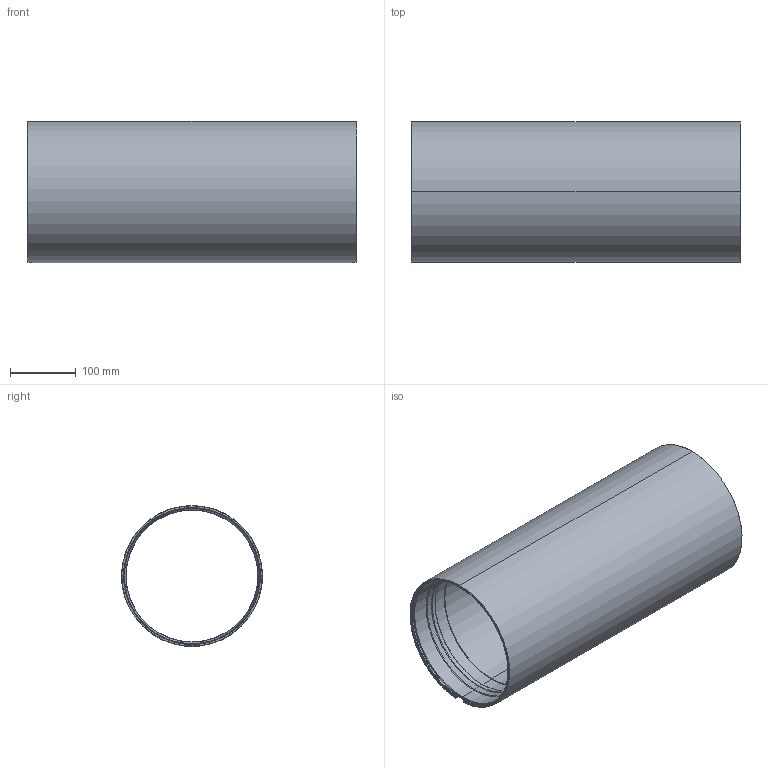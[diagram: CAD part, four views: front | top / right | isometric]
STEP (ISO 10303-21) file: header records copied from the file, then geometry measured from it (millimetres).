
FILE_DESCRIPTION (( 'STEP AP214' ), '1' );
FILE_NAME ('BR-101412-500_RevB.STEP', '2025-01-23T23:44:05', ( '' ), ( '' ), 'SwSTEP 2.0', 'SolidWorks 2024', '' );
FILE_SCHEMA (( 'AUTOMOTIVE_DESIGN' ));
Length unit declared in the file: millimetre
Products named in the file (1): BR-101412-500_RevB
Bounding box: 500 x 214.01 x 214.2 mm (x, y, z)
Volume: 2131395.9 mm3; surface area: 659757.3 mm2
Topology: 1 solids, 1 shells, 108 faces, 256 edges, 152 vertices
Faces by surface type: cylinder 30, cone 26, torus 20, plane 16, bspline 16
Entity records: 5515 total; most frequent: CARTESIAN_POINT 3155, ORIENTED_EDGE 512, DIRECTION 460, EDGE_CURVE 256, AXIS2_PLACEMENT_3D 199, VERTEX_POINT 152, EDGE_LOOP 112, FACE_OUTER_BOUND 108
